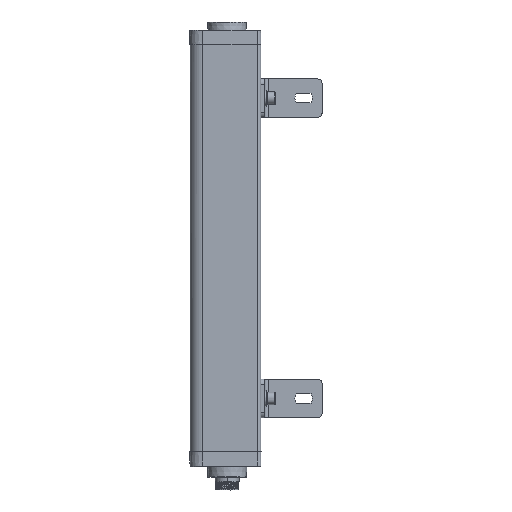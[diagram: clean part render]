
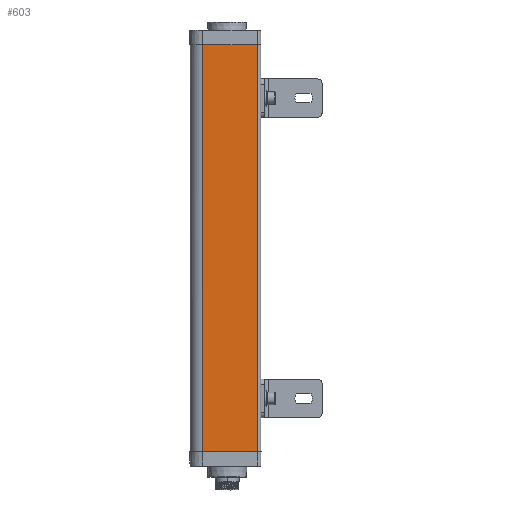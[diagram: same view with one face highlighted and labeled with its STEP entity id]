
A CAD part, left-side view. The second image highlights one B-rep face of the part: STEP entity #603.
In plain terms, the highlighted planar face has unit normal (-1, 0, 0).
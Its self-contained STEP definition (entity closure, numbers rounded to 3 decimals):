
#21=CARTESIAN_POINT('',(-17.5,18.206,0.));
#29=DIRECTION('',(0.,1.,0.));
#30=VECTOR('',#29,41.056);
#31=CARTESIAN_POINT('',(-17.5,-22.85,0.));
#32=LINE('',#31,#30);
#204=DIRECTION('',(0.,0.,1.));
#205=VECTOR('',#204,305.);
#206=CARTESIAN_POINT('',(-17.5,18.206,0.));
#207=LINE('',#206,#205);
#208=DIRECTION('',(0.,1.,0.));
#209=VECTOR('',#208,41.056);
#210=CARTESIAN_POINT('',(-17.5,-22.85,305.));
#211=LINE('',#210,#209);
#212=DIRECTION('',(0.,0.,-1.));
#213=VECTOR('',#212,305.);
#214=CARTESIAN_POINT('',(-17.5,-22.85,305.));
#215=LINE('',#214,#213);
#337=CARTESIAN_POINT('',(-17.5,-22.85,0.));
#339=VERTEX_POINT('',#337);
#350=VERTEX_POINT('',#21);
#399=CARTESIAN_POINT('',(-17.5,18.206,305.));
#400=VERTEX_POINT('',#399);
#405=CARTESIAN_POINT('',(-17.5,-22.85,305.));
#406=VERTEX_POINT('',#405);
#591=CARTESIAN_POINT('',(-17.5,18.206,1750.));
#592=DIRECTION('',(1.,0.,0.));
#593=DIRECTION('',(0.,0.,-1.));
#594=AXIS2_PLACEMENT_3D('',#591,#592,#593);
#595=PLANE('',#594);
#596=ORIENTED_EDGE('',*,*,#428,.T.);
#597=ORIENTED_EDGE('',*,*,#586,.T.);
#598=ORIENTED_EDGE('',*,*,#543,.F.);
#600=ORIENTED_EDGE('',*,*,#599,.T.);
#601=EDGE_LOOP('',(#596,#597,#598,#600));
#602=FACE_OUTER_BOUND('',#601,.F.);
#603=ADVANCED_FACE('',(#602),#595,.F.);
#428=EDGE_CURVE('',#339,#350,#32,.T.);
#543=EDGE_CURVE('',#406,#400,#211,.T.);
#586=EDGE_CURVE('',#350,#400,#207,.T.);
#599=EDGE_CURVE('',#406,#339,#215,.T.);
